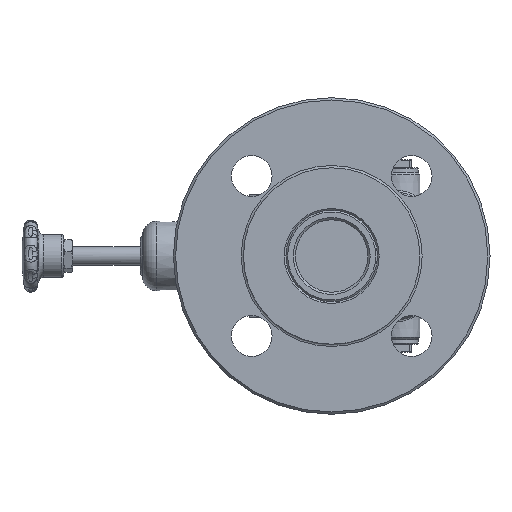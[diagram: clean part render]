
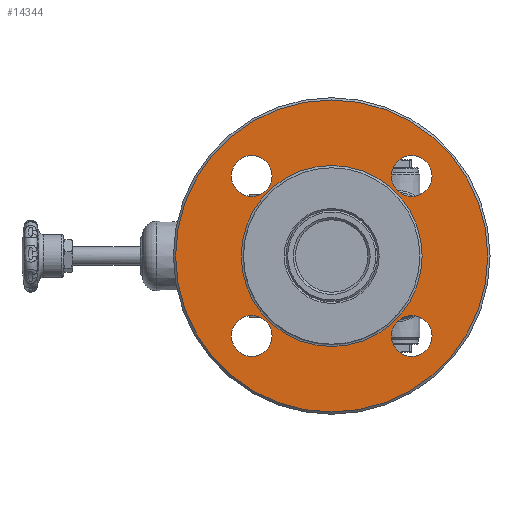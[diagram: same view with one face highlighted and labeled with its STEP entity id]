
A CAD part, left-side view. The second image highlights one B-rep face of the part: STEP entity #14344.
In plain terms, the highlighted planar face has unit normal (-1, 0, 0).
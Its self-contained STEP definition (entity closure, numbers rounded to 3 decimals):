
#3506=FACE_BOUND('',#5217,.T.);
#3507=FACE_BOUND('',#5218,.T.);
#3508=FACE_BOUND('',#5219,.T.);
#3509=FACE_BOUND('',#5220,.T.);
#3510=FACE_BOUND('',#5221,.T.);
#4328=FACE_OUTER_BOUND('',#5216,.T.);
#5216=EDGE_LOOP('',(#13250));
#5217=EDGE_LOOP('',(#13251));
#5218=EDGE_LOOP('',(#13252));
#5219=EDGE_LOOP('',(#13253));
#5220=EDGE_LOOP('',(#13254));
#5221=EDGE_LOOP('',(#13255));
#5842=CIRCLE('',#15546,40.);
#5843=CIRCLE('',#15548,9.);
#5844=CIRCLE('',#15550,9.);
#5845=CIRCLE('',#15552,9.);
#5846=CIRCLE('',#15554,9.);
#5847=CIRCLE('',#15556,69.);
#7118=VERTEX_POINT('',#67750);
#7119=VERTEX_POINT('',#67754);
#7120=VERTEX_POINT('',#67758);
#7121=VERTEX_POINT('',#67762);
#7122=VERTEX_POINT('',#67766);
#7123=VERTEX_POINT('',#67770);
#9159=EDGE_CURVE('',#7118,#7118,#5842,.T.);
#9161=EDGE_CURVE('',#7119,#7119,#5843,.T.);
#9163=EDGE_CURVE('',#7120,#7120,#5844,.T.);
#9165=EDGE_CURVE('',#7121,#7121,#5845,.T.);
#9167=EDGE_CURVE('',#7122,#7122,#5846,.T.);
#9168=EDGE_CURVE('',#7123,#7123,#5847,.T.);
#13250=ORIENTED_EDGE('',*,*,#9168,.F.);
#13251=ORIENTED_EDGE('',*,*,#9159,.F.);
#13252=ORIENTED_EDGE('',*,*,#9161,.T.);
#13253=ORIENTED_EDGE('',*,*,#9163,.T.);
#13254=ORIENTED_EDGE('',*,*,#9165,.T.);
#13255=ORIENTED_EDGE('',*,*,#9167,.T.);
#13526=PLANE('',#15555);
#14344=ADVANCED_FACE('',(#4328,#3506,#3507,#3508,#3509,#3510),#13526,.T.);
#15546=AXIS2_PLACEMENT_3D('',#67752,#18590,#18591);
#15548=AXIS2_PLACEMENT_3D('',#67756,#18595,#18596);
#15550=AXIS2_PLACEMENT_3D('',#67760,#18600,#18601);
#15552=AXIS2_PLACEMENT_3D('',#67764,#18605,#18606);
#15554=AXIS2_PLACEMENT_3D('',#67768,#18610,#18611);
#15555=AXIS2_PLACEMENT_3D('',#67769,#18612,#18613);
#15556=AXIS2_PLACEMENT_3D('',#67771,#18614,#18615);
#18590=DIRECTION('center_axis',(-1.,0.,0.));
#18591=DIRECTION('ref_axis',(0.,0.,1.));
#18595=DIRECTION('center_axis',(1.,0.,0.));
#18596=DIRECTION('ref_axis',(0.,0.,1.));
#18600=DIRECTION('center_axis',(1.,0.,0.));
#18601=DIRECTION('ref_axis',(0.,1.,0.));
#18605=DIRECTION('center_axis',(1.,0.,0.));
#18606=DIRECTION('ref_axis',(0.,-1.,0.));
#18610=DIRECTION('center_axis',(1.,0.,0.));
#18611=DIRECTION('ref_axis',(0.,0.,-1.));
#18612=DIRECTION('center_axis',(-1.,0.,0.));
#18613=DIRECTION('ref_axis',(0.,0.,1.));
#18614=DIRECTION('center_axis',(1.,0.,0.));
#18615=DIRECTION('ref_axis',(0.,0.,1.));
#67750=CARTESIAN_POINT('',(-82.,0.,-40.));
#67752=CARTESIAN_POINT('Origin',(-82.,0.,0.));
#67754=CARTESIAN_POINT('',(-82.,-35.355,-44.355));
#67756=CARTESIAN_POINT('Origin',(-82.,-35.355,-35.355));
#67758=CARTESIAN_POINT('',(-82.,-44.355,35.355));
#67760=CARTESIAN_POINT('Origin',(-82.,-35.355,35.355));
#67762=CARTESIAN_POINT('',(-82.,44.355,-35.355));
#67764=CARTESIAN_POINT('Origin',(-82.,35.355,-35.355));
#67766=CARTESIAN_POINT('',(-82.,35.355,44.355));
#67768=CARTESIAN_POINT('Origin',(-82.,35.355,35.355));
#67769=CARTESIAN_POINT('Origin',(-82.,0.,0.));
#67770=CARTESIAN_POINT('',(-82.,0.,-69.));
#67771=CARTESIAN_POINT('Origin',(-82.,0.,0.));
